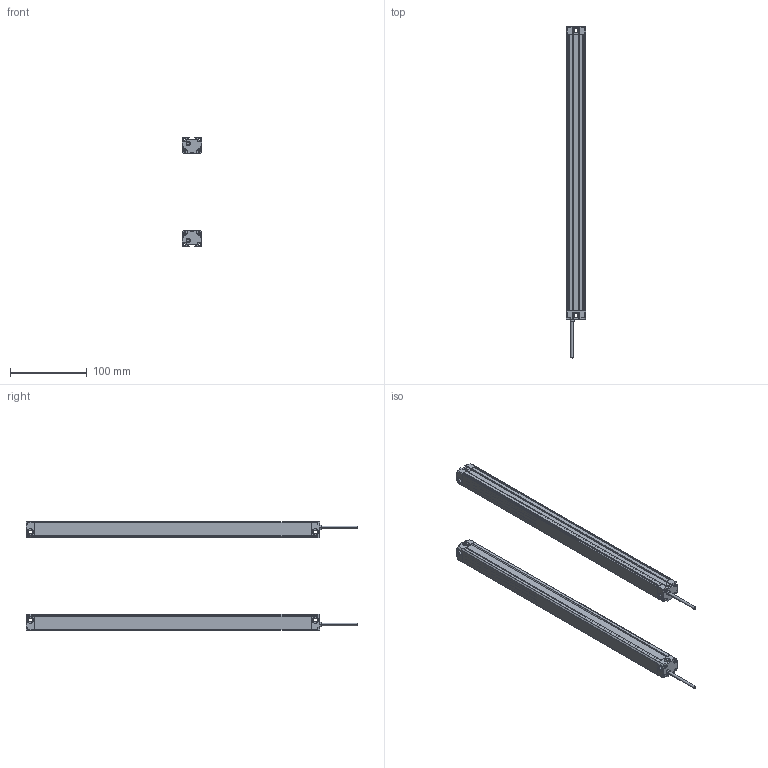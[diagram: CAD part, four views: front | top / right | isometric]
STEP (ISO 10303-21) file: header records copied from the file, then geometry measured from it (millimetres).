
FILE_DESCRIPTION (( 'STEP AP214' ), '1' );
FILE_NAME ('MTC1820.STEP', '2022-08-02T08:56:30', ( '' ), ( '' ), 'SwSTEP 2.0', 'SolidWorks 2018', '' );
FILE_SCHEMA (( 'AUTOMOTIVE_DESIGN' ));
Length unit declared in the file: millimetre
Products named in the file (5): 噩砃P02^MTC; P01^MTC; MTC1820; P02^MTC; MTC waike^MTC
Assembly tree (6 placements, depth 2):
  MTC1820
    MTC waike^MTC  x2
    P01^MTC  x2
    P02^MTC
    噩砃P02^MTC
Bounding box: 25 x 432 x 141.4 mm (x, y, z)
Volume: 132077.8 mm3; surface area: 176528.2 mm2
Topology: 8 solids, 8 shells, 480 faces, 1396 edges, 924 vertices
Faces by surface type: plane 272, cylinder 208
Entity records: 10886 total; most frequent: DIRECTION 1881, CARTESIAN_POINT 1878, ORIENTED_EDGE 1846, EDGE_CURVE 923, AXIS2_PLACEMENT_3D 637, VERTEX_POINT 610, LINE 607, VECTOR 607
